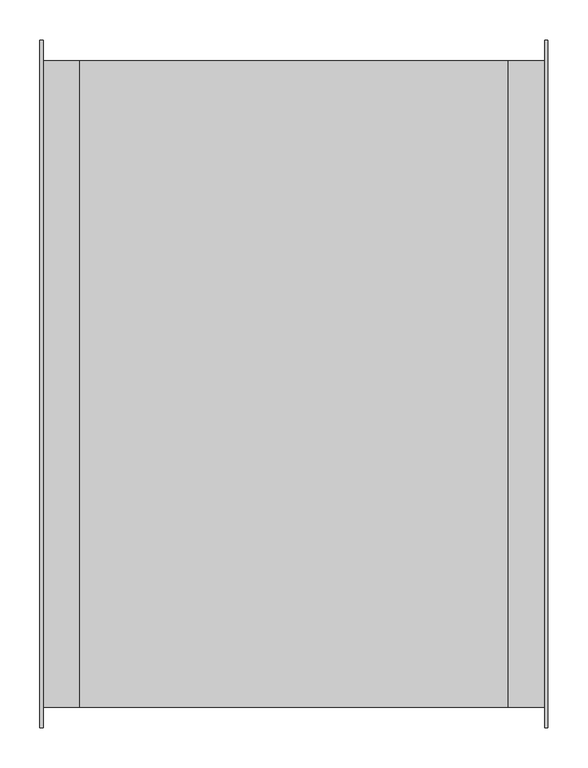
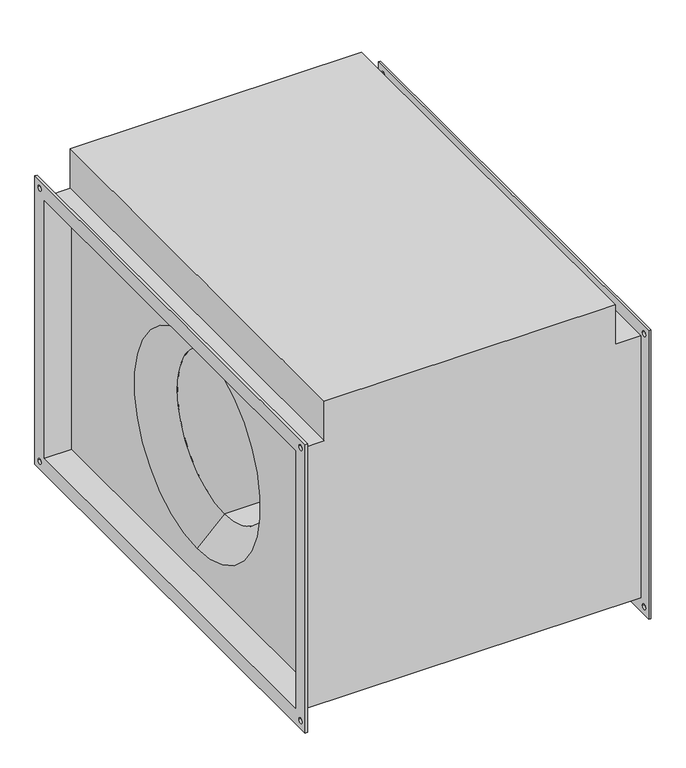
"""IFC4 building model written with IfcOpenShell, lengths in millimetres: proxy geometry, СВ_Вентилятор_КанальныйПрямоугольный_200-1000_SVPS : SVPS-800x500/40.4D."""

from ifc_helpers import new_model, si_unit, frame, origin, place, context, project, spatial, polyline, circle_curve, source, transform, mapped, element, save
from ifc_brep_helpers import plane_surface, revolved_surface, advanced_brep


def mechanical_equipment_5d675786(model_context):
    return source(origin(), model_context, "Body", "AdvancedBrep", [
        advanced_brep(
        [(-313.5, -404.0, 254.0), (-267.5, -404.0, 254.0), (-267.5, 404.0, 254.0), (-313.5, 404.0, 254.0), (267.5, 404.0, 331.0), (267.5, -404.0, 331.0), (267.5, -404.0, 254.0), (267.5, 404.0, 254.0), (267.5, 400.0, -250.0), (267.5, 400.0, 250.0), (267.5, -400.0, 250.0), (267.5, -400.0, -250.0), (267.5, 0.0, 200.0), (267.5, 0.0, -200.0), (-267.5, 400.0, 250.0), (-267.5, 400.0, -250.0), (-267.5, -400.0, -250.0), (-267.5, -400.0, 250.0), (-267.5, 0.0, -200.0), (-267.5, 0.0, 200.0), (-267.5, -404.0, 331.0), (-267.5, 404.0, 331.0), (-313.5, -404.0, -254.0), (313.5, -404.0, -254.0), (313.5, -404.0, 254.0), (-313.5, 404.0, -254.0), (313.5, 404.0, -254.0), (313.5, 404.0, 254.0), (217.5, 0.0, -150.0), (217.5, 0.0, 150.0), (-217.5, 0.0, 150.0), (-217.5, 0.0, -150.0), (-317.5, -430.0, 280.0), (-317.5, 430.0, 280.0), (-317.5, 430.0, -280.0), (-317.5, -430.0, -280.0), (-317.5, -400.0, 250.0), (-317.5, -400.0, -250.0), (-317.5, 400.0, -250.0), (-317.5, 400.0, 250.0), (-317.5, 410.0, 265.0), (-317.5, 420.0, 265.0), (-317.5, -420.0, 265.0), (-317.5, -410.0, 265.0), (-317.5, -420.0, -265.0), (-317.5, -410.0, -265.0), (-317.5, 410.0, -265.0), (-317.5, 420.0, -265.0), (-313.5, -430.0, 280.0), (-313.5, -430.0, -280.0), (-313.5, 430.0, -280.0), (-313.5, 430.0, 280.0), (-313.5, 420.0, 265.0), (-313.5, 410.0, 265.0), (-313.5, -410.0, 265.0), (-313.5, -420.0, 265.0), (-313.5, -410.0, -265.0), (-313.5, -420.0, -265.0), (-313.5, 420.0, -265.0), (-313.5, 410.0, -265.0), (313.5, 430.0, 280.0), (313.5, 430.0, -280.0), (313.5, -430.0, -280.0), (313.5, -430.0, 280.0), (313.5, 410.0, 265.0), (313.5, 420.0, 265.0), (313.5, -420.0, 265.0), (313.5, -410.0, 265.0), (313.5, -420.0, -265.0), (313.5, -410.0, -265.0), (313.5, 410.0, -265.0), (313.5, 420.0, -265.0), (317.5, 430.0, 280.0), (317.5, -430.0, 280.0), (317.5, -430.0, -280.0), (317.5, 430.0, -280.0), (317.5, 400.0, 250.0), (317.5, 400.0, -250.0), (317.5, -400.0, -250.0), (317.5, -400.0, 250.0), (317.5, 420.0, 265.0), (317.5, 410.0, 265.0), (317.5, -410.0, 265.0), (317.5, -420.0, 265.0), (317.5, -410.0, -265.0), (317.5, -420.0, -265.0), (317.5, 420.0, -265.0), (317.5, 410.0, -265.0)],
        [
            (0, 1),
            (1, 2),
            (2, 3),
            (3, 0),
            (4, 5),
            (5, 6),
            (6, 7),
            (7, 4),
            (8, 9),
            (9, 10),
            (10, 11),
            (11, 8),
            (12, 13, circle_curve(frame((267.5, 0.0, 0.0), z_axis=(-1.0, 0.0, 0.0), x_axis=(0.0, 0.0, 1.0)), 200.0)),
            (13, 12, circle_curve(frame((267.5, 0.0, 0.0), z_axis=(-1.0, 0.0, 0.0), x_axis=(0.0, 0.0, 1.0)), 200.0)),
            (14, 15),
            (15, 16),
            (16, 17),
            (17, 14),
            (18, 19, circle_curve(frame((-267.5, 0.0, 0.0), z_axis=(1.0, 0.0, 0.0), x_axis=(0.0, 0.0, 1.0)), 200.0)),
            (19, 18, circle_curve(frame((-267.5, 0.0, 0.0), z_axis=(1.0, 0.0, 0.0), x_axis=(0.0, 0.0, 1.0)), 200.0)),
            (20, 21),
            (21, 2),
            (1, 20),
            (5, 20),
            (0, 22),
            (22, 23),
            (23, 24),
            (24, 6),
            (22, 25),
            (25, 26),
            (26, 23),
            (21, 4),
            (7, 27),
            (27, 26),
            (25, 3),
            (24, 27),
            (28, 13),
            (12, 29),
            (29, 28, circle_curve(frame((217.5, 0.0, 0.0), z_axis=(-1.0, 0.0, 0.0), x_axis=(0.0, 0.0, 1.0)), 150.0)),
            (28, 29, circle_curve(frame((217.5, 0.0, 0.0), z_axis=(-1.0, 0.0, 0.0), x_axis=(0.0, 0.0, 1.0)), 150.0)),
            (29, 30),
            (30, 31, circle_curve(frame((-217.5, 0.0, 0.0), z_axis=(-1.0, 0.0, 0.0), x_axis=(0.0, 0.0, 1.0)), 150.0)),
            (31, 28),
            (31, 30, circle_curve(frame((-217.5, 0.0, 0.0), z_axis=(-1.0, 0.0, 0.0), x_axis=(0.0, 0.0, 1.0)), 150.0)),
            (30, 19),
            (18, 31),
            (32, 33),
            (33, 34),
            (34, 35),
            (35, 32),
            (36, 37),
            (37, 38),
            (38, 39),
            (39, 36),
            (40, 41, circle_curve(frame((-317.5, 415.0, 265.0), z_axis=(1.0, 0.0, 0.0), x_axis=(0.0, 1.0, 0.0)), 5.0)),
            (41, 40, circle_curve(frame((-317.5, 415.0, 265.0), z_axis=(1.0, 0.0, 0.0), x_axis=(0.0, 1.0, 0.0)), 5.0)),
            (42, 43, circle_curve(frame((-317.5, -415.0, 265.0), z_axis=(1.0, 0.0, 0.0), x_axis=(0.0, 1.0, 0.0)), 5.0)),
            (43, 42, circle_curve(frame((-317.5, -415.0, 265.0), z_axis=(1.0, 0.0, 0.0), x_axis=(0.0, 1.0, 0.0)), 5.0)),
            (44, 45, circle_curve(frame((-317.5, -415.0, -265.0), z_axis=(1.0, 0.0, 0.0), x_axis=(0.0, 1.0, 0.0)), 5.0)),
            (45, 44, circle_curve(frame((-317.5, -415.0, -265.0), z_axis=(1.0, 0.0, 0.0), x_axis=(0.0, 1.0, 0.0)), 5.0)),
            (46, 47, circle_curve(frame((-317.5, 415.0, -265.0), z_axis=(1.0, 0.0, 0.0), x_axis=(0.0, 1.0, 0.0)), 5.0)),
            (47, 46, circle_curve(frame((-317.5, 415.0, -265.0), z_axis=(1.0, 0.0, 0.0), x_axis=(0.0, 1.0, 0.0)), 5.0)),
            (48, 49),
            (49, 50),
            (50, 51),
            (51, 48),
            (52, 53, circle_curve(frame((-313.5, 415.0, 265.0), z_axis=(-1.0, 0.0, 0.0), x_axis=(0.0, 1.0, 0.0)), 5.0)),
            (53, 52, circle_curve(frame((-313.5, 415.0, 265.0), z_axis=(-1.0, 0.0, 0.0), x_axis=(0.0, 1.0, 0.0)), 5.0)),
            (54, 55, circle_curve(frame((-313.5, -415.0, 265.0), z_axis=(-1.0, 0.0, 0.0), x_axis=(0.0, 1.0, 0.0)), 5.0)),
            (55, 54, circle_curve(frame((-313.5, -415.0, 265.0), z_axis=(-1.0, 0.0, 0.0), x_axis=(0.0, 1.0, 0.0)), 5.0)),
            (56, 57, circle_curve(frame((-313.5, -415.0, -265.0), z_axis=(-1.0, 0.0, 0.0), x_axis=(0.0, 1.0, 0.0)), 5.0)),
            (57, 56, circle_curve(frame((-313.5, -415.0, -265.0), z_axis=(-1.0, 0.0, 0.0), x_axis=(0.0, 1.0, 0.0)), 5.0)),
            (58, 59, circle_curve(frame((-313.5, 415.0, -265.0), z_axis=(-1.0, 0.0, 0.0), x_axis=(0.0, 1.0, 0.0)), 5.0)),
            (59, 58, circle_curve(frame((-313.5, 415.0, -265.0), z_axis=(-1.0, 0.0, 0.0), x_axis=(0.0, 1.0, 0.0)), 5.0)),
            (35, 49),
            (48, 32),
            (34, 50),
            (33, 51),
            (60, 61),
            (61, 62),
            (62, 63),
            (63, 60),
            (64, 65, circle_curve(frame((313.5, 415.0, 265.0), z_axis=(1.0, 0.0, 0.0), x_axis=(0.0, 1.0, 0.0)), 5.0)),
            (65, 64, circle_curve(frame((313.5, 415.0, 265.0), z_axis=(1.0, 0.0, 0.0), x_axis=(0.0, 1.0, 0.0)), 5.0)),
            (66, 67, circle_curve(frame((313.5, -415.0, 265.0), z_axis=(1.0, 0.0, 0.0), x_axis=(0.0, 1.0, 0.0)), 5.0)),
            (67, 66, circle_curve(frame((313.5, -415.0, 265.0), z_axis=(1.0, 0.0, 0.0), x_axis=(0.0, 1.0, 0.0)), 5.0)),
            (68, 69, circle_curve(frame((313.5, -415.0, -265.0), z_axis=(1.0, 0.0, 0.0), x_axis=(0.0, 1.0, 0.0)), 5.0)),
            (69, 68, circle_curve(frame((313.5, -415.0, -265.0), z_axis=(1.0, 0.0, 0.0), x_axis=(0.0, 1.0, 0.0)), 5.0)),
            (70, 71, circle_curve(frame((313.5, 415.0, -265.0), z_axis=(1.0, 0.0, 0.0), x_axis=(0.0, 1.0, 0.0)), 5.0)),
            (71, 70, circle_curve(frame((313.5, 415.0, -265.0), z_axis=(1.0, 0.0, 0.0), x_axis=(0.0, 1.0, 0.0)), 5.0)),
            (72, 73),
            (73, 74),
            (74, 75),
            (75, 72),
            (76, 77),
            (77, 78),
            (78, 79),
            (79, 76),
            (80, 81, circle_curve(frame((317.5, 415.0, 265.0), z_axis=(-1.0, 0.0, 0.0), x_axis=(0.0, 1.0, 0.0)), 5.0)),
            (81, 80, circle_curve(frame((317.5, 415.0, 265.0), z_axis=(-1.0, 0.0, 0.0), x_axis=(0.0, 1.0, 0.0)), 5.0)),
            (82, 83, circle_curve(frame((317.5, -415.0, 265.0), z_axis=(-1.0, 0.0, 0.0), x_axis=(0.0, 1.0, 0.0)), 5.0)),
            (83, 82, circle_curve(frame((317.5, -415.0, 265.0), z_axis=(-1.0, 0.0, 0.0), x_axis=(0.0, 1.0, 0.0)), 5.0)),
            (84, 85, circle_curve(frame((317.5, -415.0, -265.0), z_axis=(-1.0, 0.0, 0.0), x_axis=(0.0, 1.0, 0.0)), 5.0)),
            (85, 84, circle_curve(frame((317.5, -415.0, -265.0), z_axis=(-1.0, 0.0, 0.0), x_axis=(0.0, 1.0, 0.0)), 5.0)),
            (86, 87, circle_curve(frame((317.5, 415.0, -265.0), z_axis=(-1.0, 0.0, 0.0), x_axis=(0.0, 1.0, 0.0)), 5.0)),
            (87, 86, circle_curve(frame((317.5, 415.0, -265.0), z_axis=(-1.0, 0.0, 0.0), x_axis=(0.0, 1.0, 0.0)), 5.0)),
            (63, 73),
            (72, 60),
            (62, 74),
            (61, 75),
            (39, 14),
            (17, 36),
            (38, 15),
            (37, 16),
            (76, 9),
            (8, 77),
            (11, 78),
            (10, 79),
            (40, 53),
            (52, 41),
            (64, 81),
            (80, 65),
            (42, 55),
            (54, 43),
            (66, 83),
            (82, 67),
            (44, 57),
            (56, 45),
            (68, 85),
            (84, 69),
            (46, 59),
            (58, 47),
            (70, 87),
            (86, 71),
        ],
        [
            plane_surface(frame((-267.5, 404.0, 254.0), z_axis=(0.0, 0.0, 1.0), x_axis=(-1.0, 0.0, 0.0))),
            plane_surface(frame((267.5, -404.0, 331.0), z_axis=(1.0, 0.0, 0.0), x_axis=(0.0, 0.0, -1.0))),
            plane_surface(frame((-267.5, -404.0, 331.0), z_axis=(-1.0, 0.0, 0.0), x_axis=(0.0, 0.0, 1.0))),
            plane_surface(frame((267.5, -404.0, 331.0), z_axis=(0.0, -1.0, 0.0), x_axis=(-1.0, 0.0, 0.0))),
            plane_surface(frame((267.5, -404.0, -254.0), z_axis=(0.0, 0.0, -1.0), x_axis=(-1.0, 0.0, 0.0))),
            plane_surface(frame((267.5, 404.0, -254.0), z_axis=(0.0, 1.0, 0.0), x_axis=(-1.0, 0.0, 0.0))),
            plane_surface(frame((267.5, 404.0, 331.0), z_axis=(0.0, 0.0, 1.0), x_axis=(-1.0, 0.0, 0.0))),
            plane_surface(frame((313.5, 404.0, 254.0), z_axis=(0.0, 0.0, 1.0), x_axis=(-1.0, 0.0, 0.0))),
            revolved_surface(polyline([(217.5, 0.0, 150.0), (267.5, 0.0, 200.0)]), (-704.5617897, 0.0, 0.0), (-1.0, 0.0, 0.0)),
            revolved_surface(polyline([(-217.5, 0.0, 150.0), (217.5, 0.0, 150.0)]), (-704.5617897, 0.0, 0.0), (-1.0, 0.0, 0.0)),
            revolved_surface(polyline([(-267.5, 0.0, 200.0), (-217.5, 0.0, 150.0)]), (-704.5617897, 0.0, 0.0), (-1.0, 0.0, 0.0)),
            plane_surface(frame((-317.5, -430.0, 280.0), z_axis=(-1.0, 0.0, 0.0), x_axis=(0.0, 0.0, 1.0))),
            plane_surface(frame((-313.5, -430.0, 280.0), z_axis=(1.0, 0.0, 0.0), x_axis=(0.0, 0.0, -1.0))),
            plane_surface(frame((-313.5, -430.0, 280.0), z_axis=(0.0, -1.0, 0.0), x_axis=(-1.0, 0.0, 0.0))),
            plane_surface(frame((-313.5, -430.0, -280.0), z_axis=(0.0, 0.0, -1.0), x_axis=(-1.0, 0.0, 0.0))),
            plane_surface(frame((-313.5, 430.0, -280.0), z_axis=(0.0, 1.0, 0.0), x_axis=(-1.0, 0.0, 0.0))),
            plane_surface(frame((-313.5, 430.0, 280.0), z_axis=(0.0, 0.0, 1.0), x_axis=(-1.0, 0.0, 0.0))),
            plane_surface(frame((313.5, 400.0, -250.0), z_axis=(-1.0, 0.0, 0.0), x_axis=(0.0, 0.0, 1.0))),
            plane_surface(frame((317.5, 400.0, -250.0), z_axis=(1.0, 0.0, 0.0), x_axis=(0.0, 0.0, -1.0))),
            plane_surface(frame((317.5, 430.0, 280.0), z_axis=(0.0, 0.0, 1.0), x_axis=(-1.0, 0.0, 0.0))),
            plane_surface(frame((317.5, -430.0, 280.0), z_axis=(0.0, -1.0, 0.0), x_axis=(-1.0, 0.0, 0.0))),
            plane_surface(frame((317.5, -430.0, -280.0), z_axis=(0.0, 0.0, -1.0), x_axis=(-1.0, 0.0, 0.0))),
            plane_surface(frame((317.5, 430.0, -280.0), z_axis=(0.0, 1.0, 0.0), x_axis=(-1.0, 0.0, 0.0))),
            plane_surface(frame((-313.5, -400.0, 250.0), z_axis=(0.0, 0.0, -1.0), x_axis=(-1.0, 0.0, 0.0))),
            plane_surface(frame((-313.5, 400.0, 250.0), z_axis=(0.0, -1.0, 0.0), x_axis=(-1.0, 0.0, 0.0))),
            plane_surface(frame((-313.5, 400.0, -250.0), z_axis=(0.0, 0.0, 1.0), x_axis=(-1.0, 0.0, 0.0))),
            plane_surface(frame((-313.5, -400.0, -250.0), z_axis=(0.0, 1.0, 0.0), x_axis=(-1.0, 0.0, 0.0))),
            plane_surface(frame((317.5, 400.0, 250.0), z_axis=(0.0, -1.0, 0.0), x_axis=(-1.0, 0.0, 0.0))),
            plane_surface(frame((317.5, 400.0, -250.0), z_axis=(0.0, 0.0, 1.0), x_axis=(-1.0, 0.0, 0.0))),
            plane_surface(frame((317.5, -400.0, -250.0), z_axis=(0.0, 1.0, 0.0), x_axis=(-1.0, 0.0, 0.0))),
            plane_surface(frame((317.5, -400.0, 250.0), z_axis=(0.0, 0.0, -1.0), x_axis=(-1.0, 0.0, 0.0))),
            revolved_surface(polyline([(-313.5, 420.0, 265.0), (-317.5, 420.0, 265.0)]), (-317.5, 415.0, 265.0), (1.0, 0.0, 0.0)),
            revolved_surface(polyline([(317.5, 420.0, 265.0), (313.5, 420.0, 265.0)]), (-317.5, 415.0, 265.0), (1.0, 0.0, 0.0)),
            revolved_surface(polyline([(-313.5, -410.0, 265.0), (-317.5, -410.0, 265.0)]), (0.0, -415.0, 265.0), (1.0, 0.0, 0.0)),
            revolved_surface(polyline([(317.5, -410.0, 265.0), (313.5, -410.0, 265.0)]), (0.0, -415.0, 265.0), (1.0, 0.0, 0.0)),
            revolved_surface(polyline([(-313.5, -410.0, -265.0), (-317.5, -410.0, -265.0)]), (0.0, -415.0, -265.0), (1.0, 0.0, 0.0)),
            revolved_surface(polyline([(317.5, -410.0, -265.0), (313.5, -410.0, -265.0)]), (0.0, -415.0, -265.0), (1.0, 0.0, 0.0)),
            revolved_surface(polyline([(-313.5, 420.0, -265.0), (-317.5, 420.0, -265.0)]), (0.0, 415.0, -265.0), (1.0, 0.0, 0.0)),
            revolved_surface(polyline([(317.5, 420.0, -265.0), (313.5, 420.0, -265.0)]), (0.0, 415.0, -265.0), (1.0, 0.0, 0.0)),
        ],
        [
            (0, [[1, 2, 3, 4]]),
            (1, [[5, 6, 7, 8]]),
            (1, [[9, 10, 11, 12], [13, 14]]),
            (2, [[15, 16, 17, 18], [19, 20]]),
            (2, [[21, 22, -2, 23]]),
            (3, [[24, -23, -1, 25, 26, 27, 28, -6]]),
            (4, [[-26, 29, 30, 31]]),
            (5, [[32, -8, 33, 34, -30, 35, -3, -22]]),
            (6, [[-5, -32, -21, -24]]),
            (7, [[-28, 36, -33, -7]]),
            (8, [[37, -13, 38, 39]]),
            (8, [[-37, 40, -38, -14]]),
            (9, [[-39, 41, 42, 43]]),
            (9, [[-40, -43, 44, -41]]),
            (10, [[-42, 45, -19, 46]]),
            (10, [[-44, -46, -20, -45]]),
            (11, [[47, 48, 49, 50], [51, 52, 53, 54], [55, 56], [57, 58], [59, 60], [61, 62]]),
            (12, [[63, 64, 65, 66], [-25, -4, -35, -29], [67, 68], [69, 70], [71, 72], [73, 74]]),
            (13, [[-50, 75, -63, 76]]),
            (14, [[-49, 77, -64, -75]]),
            (15, [[-48, 78, -65, -77]]),
            (16, [[-47, -76, -66, -78]]),
            (17, [[79, 80, 81, 82], [-27, -31, -34, -36], [83, 84], [85, 86], [87, 88], [89, 90]]),
            (18, [[91, 92, 93, 94], [95, 96, 97, 98], [99, 100], [101, 102], [103, 104], [105, 106]]),
            (19, [[-82, 107, -91, 108]]),
            (20, [[-81, 109, -92, -107]]),
            (21, [[-80, 110, -93, -109]]),
            (22, [[-79, -108, -94, -110]]),
            (23, [[-54, 111, -18, 112]]),
            (24, [[-53, 113, -15, -111]]),
            (25, [[-52, 114, -16, -113]]),
            (26, [[-51, -112, -17, -114]]),
            (27, [[-95, 115, -9, 116]]),
            (28, [[-96, -116, -12, 117]]),
            (29, [[-97, -117, -11, 118]]),
            (30, [[-115, -98, -118, -10]]),
            (31, [[119, -67, 120, -55]]),
            (32, [[121, -99, 122, -83]]),
            (31, [[-119, -56, -120, -68]]),
            (32, [[-121, -84, -122, -100]]),
            (33, [[123, -69, 124, -57]]),
            (34, [[125, -101, 126, -85]]),
            (33, [[-123, -58, -124, -70]]),
            (34, [[-125, -86, -126, -102]]),
            (35, [[127, -71, 128, -59]]),
            (36, [[129, -103, 130, -87]]),
            (35, [[-127, -60, -128, -72]]),
            (36, [[-129, -88, -130, -104]]),
            (37, [[131, -73, 132, -61]]),
            (38, [[133, -105, 134, -89]]),
            (37, [[-131, -62, -132, -74]]),
            (38, [[-133, -90, -134, -106]]),
        ],
    ),
    ])


if __name__ == "__main__":
    model = new_model("IFC4")
    model_context = context("Model", 3, world=origin())
    ifc_project = project(units=[si_unit("LENGTHUNIT", "METRE", prefix="MILLI")], contexts=[model_context])
    site = spatial("IfcSite", under=ifc_project)
    building = spatial("IfcBuilding", under=site)
    placement = place(None, origin())
    mechanical_equipment_shape = mechanical_equipment_5d675786(model_context)
    element("IfcBuildingElementProxy", 1, Name="СВ_Вентилятор_КанальныйПрямоугольный_200-1000_SVPS : SVPS-800x500/40.4D", ObjectType="СВ_Вентилятор_КанальныйПрямоугольный_200-1000_SVPS : SVPS-800x500/40.4D", at=placement, inside=building, context=model_context, shape_type="MappedRepresentation", body=[
        mapped(mechanical_equipment_shape, transform((0.0, 0.0, 0.0), x_axis=(1.0, 0.0, 0.0), y_axis=(0.0, 1.0, 0.0), z_axis=(0.0, 0.0, 1.0))),
    ])
    save(model, "model.ifc")
